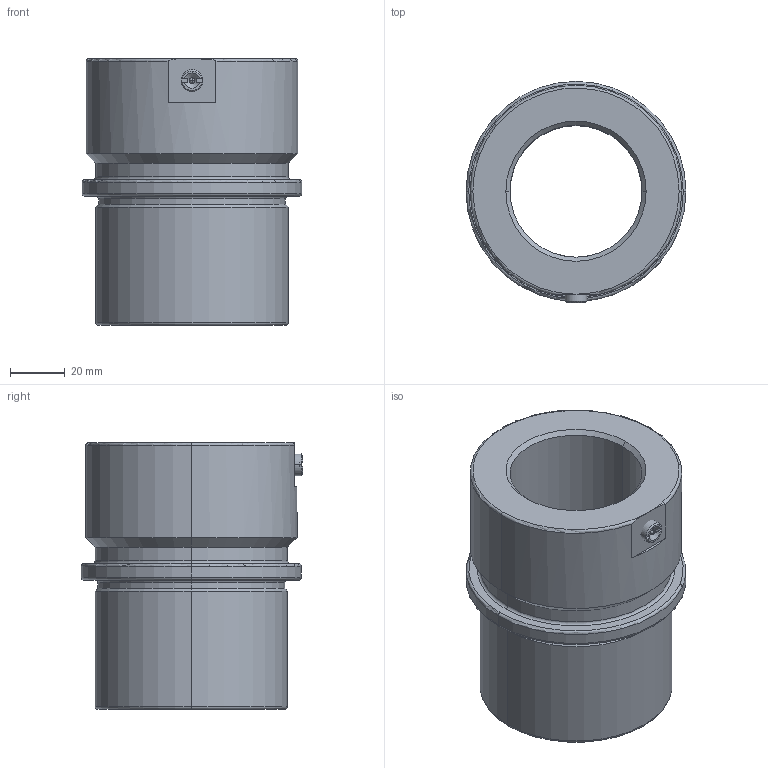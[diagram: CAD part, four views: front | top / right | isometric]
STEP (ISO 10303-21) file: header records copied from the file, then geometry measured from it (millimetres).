
FILE_DESCRIPTION(('CATIA V5 STEP Exchange'),'2;1');
FILE_NAME('C:\Users\Utente\Desktop\IO LAVORO\3D X SITO CF\X SITO\744\744-48.stp','2020-12-23T21:12:29+00:00',('none'),('none'),'CATIA Version 5 Release 20 GA (IN-10)','CATIA V5 STEP AP203','none');
FILE_SCHEMA(('CONFIG_CONTROL_DESIGN'));
Length unit declared in the file: millimetre
Products named in the file (1): 744-48
Bounding box: 80 x 80.5 x 97 mm (x, y, z)
Volume: 232664.8 mm3; surface area: 44518.7 mm2
Topology: 2 solids, 2 shells, 67 faces, 155 edges, 91 vertices
Faces by surface type: cylinder 16, plane 16, cone 16, torus 15, sphere 4
Entity records: 2027 total; most frequent: CARTESIAN_POINT 534, ORIENTED_EDGE 302, DIRECTION 266, AXIS2_PLACEMENT_3D 155, EDGE_CURVE 151, VERTEX_POINT 91, CIRCLE 87, EDGE_LOOP 74
